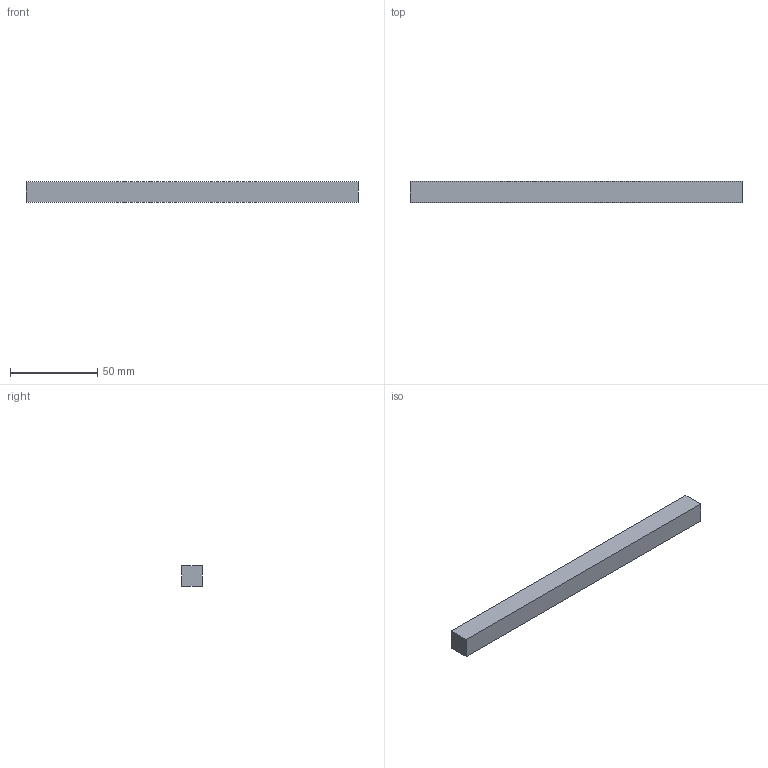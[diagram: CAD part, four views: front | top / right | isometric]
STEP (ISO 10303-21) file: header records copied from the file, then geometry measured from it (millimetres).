
FILE_DESCRIPTION(('Open CASCADE Model'),'2;1');
FILE_NAME('Open CASCADE Shape Model','2026-10-04T02:31:45',('Author'),( 'Open CASCADE'),'Open CASCADE STEP processor 8.0','Open CASCADE 8.0' ,'Unknown');
FILE_SCHEMA(('AUTOMOTIVE_DESIGN { 1 0 10303 214 1 1 1 1 }'));
Length unit declared in the file: millimetre
Products named in the file (1): Open CASCADE STEP translator 8.0 337
Bounding box: 190 x 12 x 12 mm (x, y, z)
Volume: 27360 mm3; surface area: 9408 mm2
Topology: 1 solids, 1 shells, 6 faces, 12 edges, 8 vertices
Faces by surface type: plane 6
Entity records: 322 total; most frequent: CARTESIAN_POINT 51, DIRECTION 50, LINE 36, VECTOR 36, ORIENTED_EDGE 24, PCURVE 24, DEFINITIONAL_REPRESENTATION 24, EDGE_CURVE 12
